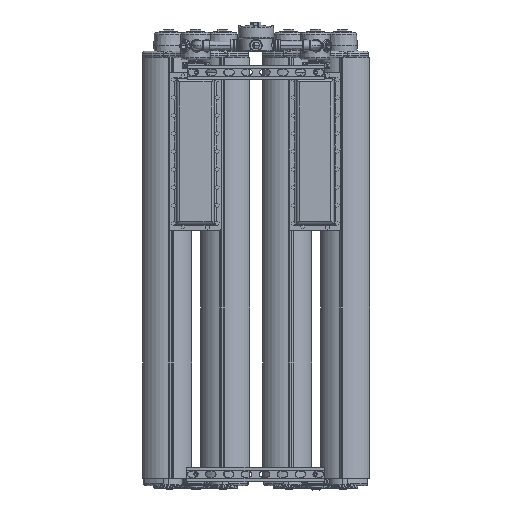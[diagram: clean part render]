
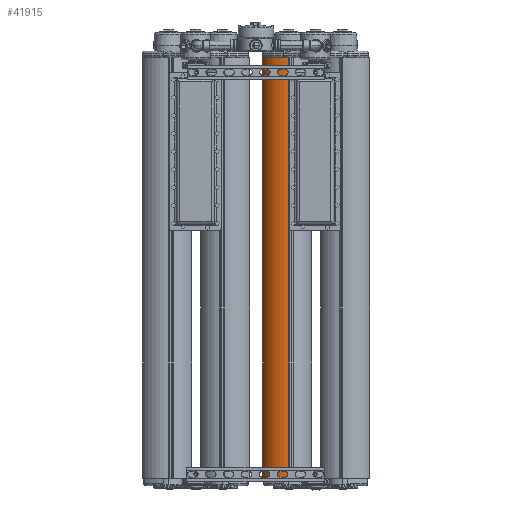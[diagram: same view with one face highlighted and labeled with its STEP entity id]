
A CAD part, front view. The second image highlights one B-rep face of the part: STEP entity #41915.
In plain terms, the highlighted cylindrical face has radius 76.103 mm (diameter 152.207 mm), a partial arc.
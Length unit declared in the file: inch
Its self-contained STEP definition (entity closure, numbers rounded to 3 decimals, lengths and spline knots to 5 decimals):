
#1006 = CYLINDRICAL_SURFACE ( 'NONE', #30823, 2.9962 ) ;
#4665 = ORIENTED_EDGE ( 'NONE', *, *, #13961, .T. ) ;
#5870 = VECTOR ( 'NONE', #35919, 39.37008 ) ;
#6098 = DIRECTION ( 'NONE',  ( 0., 0., -1. ) ) ;
#6116 = CARTESIAN_POINT ( 'NONE',  ( -2.62633, 0.24461, 47. ) ) ;
#7068 = EDGE_CURVE ( 'NONE', #8898, #44890, #38856, .T. ) ;
#8898 = VERTEX_POINT ( 'NONE', #37606 ) ;
#9573 = CARTESIAN_POINT ( 'NONE',  ( -2.62633, 0.24461, 47. ) ) ;
#9858 = DIRECTION ( 'NONE',  ( -1., 0., 0. ) ) ;
#10129 = LINE ( 'NONE', #44250, #41234 ) ;
#11706 = EDGE_CURVE ( 'NONE', #40613, #44890, #24590, .T. ) ;
#12326 = EDGE_LOOP ( 'NONE', ( #43528, #20168, #4665, #35470 ) ) ;
#13082 = DIRECTION ( 'NONE',  ( 0., 0., 1. ) ) ;
#13961 = EDGE_CURVE ( 'NONE', #24401, #40613, #34842, .T. ) ;
#15999 = DIRECTION ( 'NONE',  ( 0., 0., 1. ) ) ;
#16882 = CARTESIAN_POINT ( 'NONE',  ( 0.21331, 1.87672, 0. ) ) ;
#20168 = ORIENTED_EDGE ( 'NONE', *, *, #31729, .T. ) ;
#21754 = DIRECTION ( 'NONE',  ( 0., 0., -1. ) ) ;
#24401 = VERTEX_POINT ( 'NONE', #16882 ) ;
#24590 = LINE ( 'NONE', #9573, #5870 ) ;
#28818 = AXIS2_PLACEMENT_3D ( 'NONE', #35546, #13082, #39334 ) ;
#30823 = AXIS2_PLACEMENT_3D ( 'NONE', #39849, #6098, #9858 ) ;
#30924 = FACE_OUTER_BOUND ( 'NONE', #12326, .T. ) ;
#31729 = EDGE_CURVE ( 'NONE', #8898, #24401, #10129, .T. ) ;
#34842 = CIRCLE ( 'NONE', #47127, 2.9962 ) ;
#35470 = ORIENTED_EDGE ( 'NONE', *, *, #11706, .T. ) ;
#35546 = CARTESIAN_POINT ( 'NONE',  ( 0.04379, -1.11468, 47. ) ) ;
#35919 = DIRECTION ( 'NONE',  ( 0., 0., 1. ) ) ;
#37606 = CARTESIAN_POINT ( 'NONE',  ( 0.21331, 1.87672, 47. ) ) ;
#38481 = CARTESIAN_POINT ( 'NONE',  ( 0.04379, -1.11468, 0. ) ) ;
#38856 = CIRCLE ( 'NONE', #28818, 2.9962 ) ;
#39334 = DIRECTION ( 'NONE',  ( -1., 0., 0. ) ) ;
#39849 = CARTESIAN_POINT ( 'NONE',  ( 0.04379, -1.11468, 47. ) ) ;
#40613 = VERTEX_POINT ( 'NONE', #44609 ) ;
#41234 = VECTOR ( 'NONE', #21754, 39.37008 ) ;
#41915 = ADVANCED_FACE ( 'NONE', ( #30924 ), #1006, .T. ) ;
#42276 = DIRECTION ( 'NONE',  ( -1., 0., 0. ) ) ;
#43528 = ORIENTED_EDGE ( 'NONE', *, *, #7068, .F. ) ;
#44250 = CARTESIAN_POINT ( 'NONE',  ( 0.21331, 1.87672, 47. ) ) ;
#44609 = CARTESIAN_POINT ( 'NONE',  ( -2.62633, 0.24461, 0. ) ) ;
#44890 = VERTEX_POINT ( 'NONE', #6116 ) ;
#47127 = AXIS2_PLACEMENT_3D ( 'NONE', #38481, #15999, #42276 ) ;
